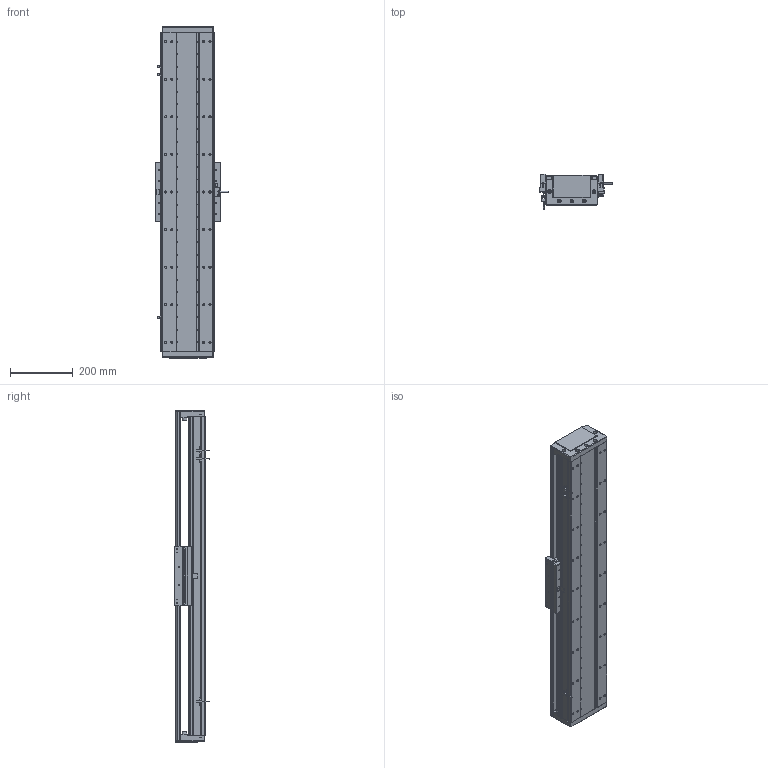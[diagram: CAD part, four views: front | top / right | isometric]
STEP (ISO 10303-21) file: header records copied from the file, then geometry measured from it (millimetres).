
FILE_DESCRIPTION (( 'STEP AP203' ), '1' );
FILE_NAME ('DA-C165-C2-T780-C010-0.2 直线电机.STEP', '2023-05-11T07:32:08', ( '微软用户' ), ( '微软中国' ), 'SwSTEP 2.0', 'SolidWorks 2019', '' );
FILE_SCHEMA (( 'CONFIG_CONTROL_DESIGN' ));
Length unit declared in the file: millimetre
Products named in the file (15): 复件 六角薄螺母 M3^DA-C165-C2-T-C010-0.2-N 直线电机_GB_FASTENER_NUT_STNAB M3-C; 复件 DMA-010-0.2 读数头^DA-C165-C2-T-C010-0.2-N 直线电机; 复件 DA165-GYP-00 光电感应片^DA-C165-C2-T-C010-0.2-N 直线电机; 珨极趙賑雄怢啣wf-C2; 复件 XD-U-02L 磁栅尺^DA-C165-C2-T-C010-0.2-N 直线电机_T; IU-CU165-L 菁釱絳寢; 葩璃 CKM01-W075-TRL^DA-C165-C2-T-C010-0.2-N 眻盄萇儂; 葩璃 PM-T45^DA-C165-C2-T-C010-0.2-N 眻盄萇儂; IU-CU165-L-00 菁釱_L1020; DA-C165-C2-T780-C010-0.2 眻盄萇儂; 复件 DA95-HXJ-00 缓冲橡胶^DA-C165-C2-T-C010-0.2-N 直线电机; 复件 DA165-T-002-00 盖板^DA-C165-C2-T-C010-0.2-N 直线电机_0840-002-00; 复件 CKM02-W075-C1C2-TP-3.0 一体电机-C2^DA-C165-C2-T-C010-0.2-N 直线电机; 复件 DA165-DG-H-N-00 端盖^DA-C165-C2-T-C010-0.2-N 直线电机; 葩璃 DA95-GT-T-00^IU-CU165-L 菁釱絳寢_T
Assembly tree (28 placements, depth 3):
  DA-C165-C2-T780-C010-0.2 眻盄萇儂
    IU-CU165-L 菁釱絳寢
      IU-CU165-L-00 菁釱_L1020
      葩璃 DA95-GT-T-00^IU-CU165-L 菁釱絳寢_T  x4
    复件 DA165-DG-H-N-00 端盖^DA-C165-C2-T-C010-0.2-N 直线电机  x2
    复件 DA95-HXJ-00 缓冲橡胶^DA-C165-C2-T-C010-0.2-N 直线电机  x4
    复件 DA165-T-002-00 盖板^DA-C165-C2-T-C010-0.2-N 直线电机_0840-002-00
    复件 XD-U-02L 磁栅尺^DA-C165-C2-T-C010-0.2-N 直线电机_T
    葩璃 PM-T45^DA-C165-C2-T-C010-0.2-N 眻盄萇儂  x3
    葩璃 CKM01-W075-TRL^DA-C165-C2-T-C010-0.2-N 眻盄萇儂
    复件 DA165-GYP-00 光电感应片^DA-C165-C2-T-C010-0.2-N 直线电机
    复件 DMA-010-0.2 读数头^DA-C165-C2-T-C010-0.2-N 直线电机
    复件 CKM02-W075-C1C2-TP-3.0 一体电机-C2^DA-C165-C2-T-C010-0.2-N 直线电机
    复件 六角薄螺母 M3^DA-C165-C2-T-C010-0.2-N 直线电机_GB_FASTENER_NUT_STNAB M3-C  x6
    珨极趙賑雄怢啣wf-C2
Bounding box: 233 x 111.45 x 1060 mm (x, y, z)
Volume: 7762591.4 mm3; surface area: 2117261.4 mm2
Topology: 66 solids, 66 shells, 3084 faces, 8472 edges, 5321 vertices
Faces by surface type: cylinder 1559, plane 1061, cone 406, torus 54, sphere 4
Entity records: 93121 total; most frequent: CARTESIAN_POINT 21792, DIRECTION 14696, ORIENTED_EDGE 14418, EDGE_CURVE 7209, AXIS2_PLACEMENT_3D 5517, VERTEX_POINT 4657, VECTOR 3662, LINE 3662
